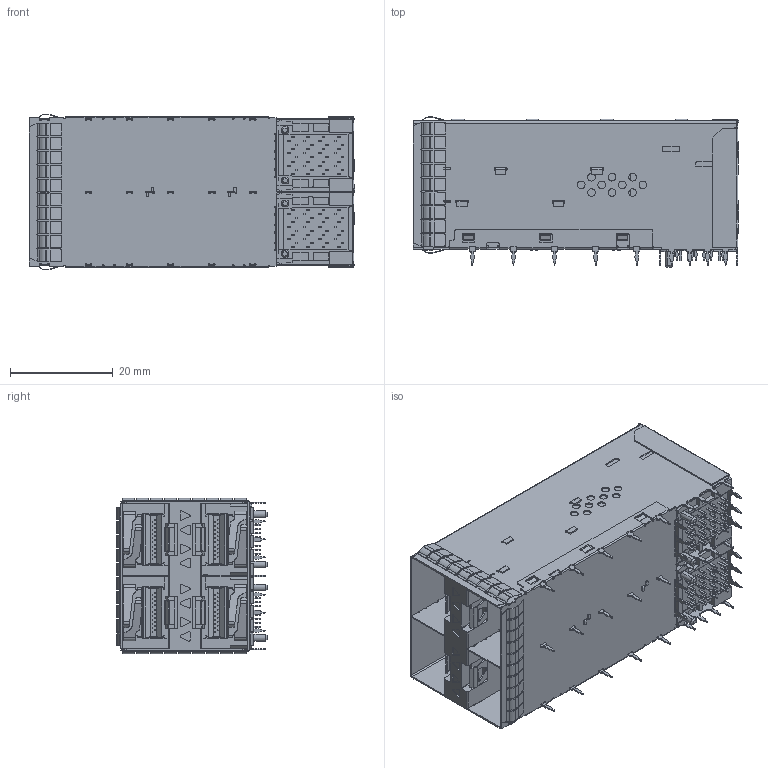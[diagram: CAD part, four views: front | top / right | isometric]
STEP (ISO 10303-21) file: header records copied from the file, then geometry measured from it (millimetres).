
FILE_DESCRIPTION (( 'STEP AP203' ), '1' );
FILE_NAME ('8957-E2X2C30PPxA-1130704.STEP', '2024-07-04T06:21:17', ( '' ), ( '' ), 'SwSTEP 2.0', 'SolidWorks 2019', '' );
FILE_SCHEMA (( 'CONFIG_CONTROL_DESIGN' ));
Products named in the file (2): 8957-E2X2C30PPxA-1130704
Assembly tree (1 placements, depth 2):
  8957-E2X2C30PPxA-1130704
    8957-E2X2C30PPxA-1130704
Bounding box: 63.34 x 29.28 x 30.31 mm (x, y, z)
Volume: 22759 mm3; surface area: 25386.1 mm2
Topology: 1 solids, 1 shells, 5518 faces, 15866 edges, 10373 vertices
Faces by surface type: plane 3093, cylinder 2333, bspline 84, cone 8
Entity records: 186884 total; most frequent: CARTESIAN_POINT 38607, ORIENTED_EDGE 31732, DIRECTION 30716, EDGE_CURVE 15866, VECTOR 10512, LINE 10512, VERTEX_POINT 10373, AXIS2_PLACEMENT_3D 10102
